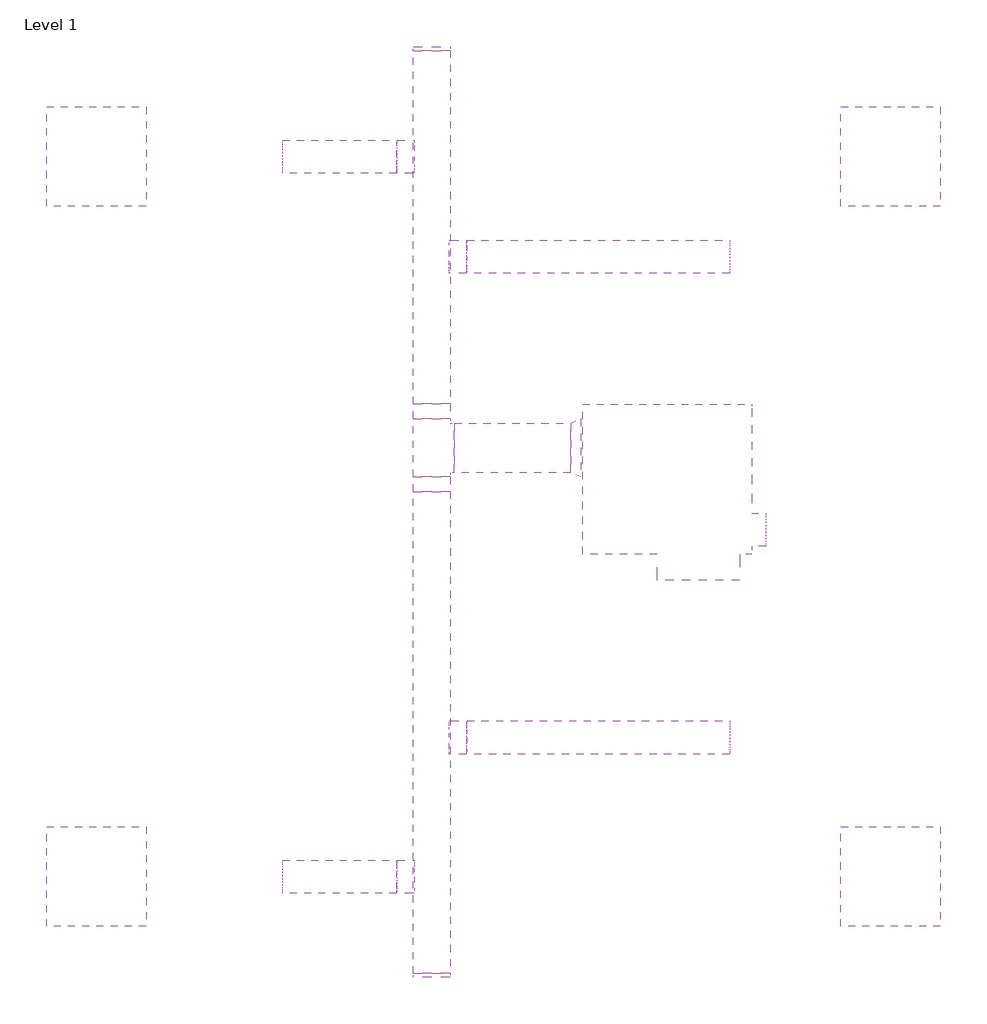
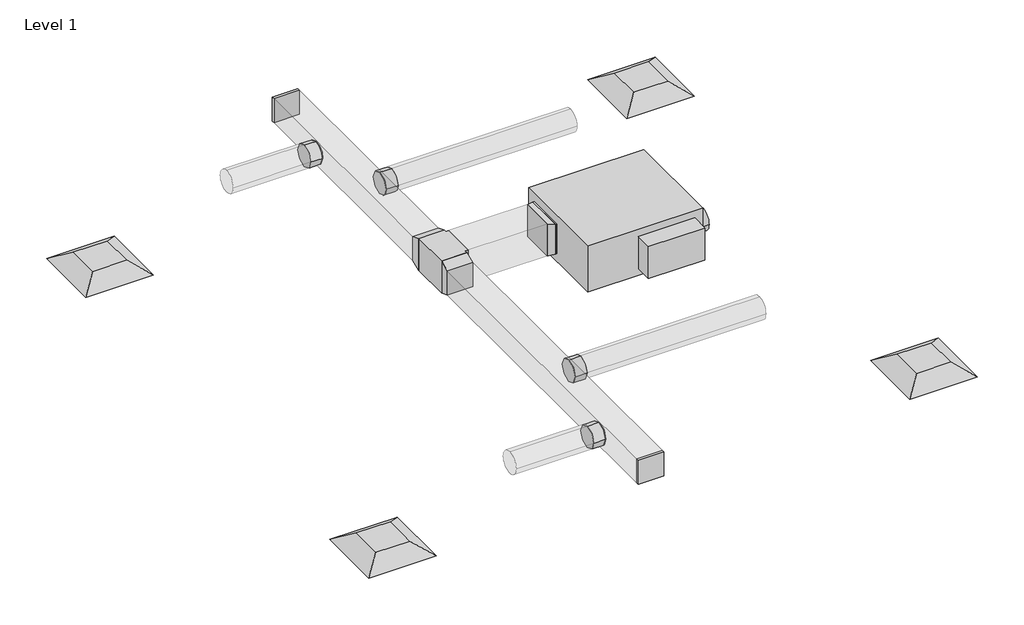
# One storey: 10 duct fittings, 7 duct segments, 4 air terminals, 1 proxy.
"""IFC4 building model written with IfcOpenShell, lengths in millimetres."""

from ifc_helpers import new_model, si_unit, point, frame, frame_2d, origin, place, context, project, spatial, polyline, circle_curve, trimmed, segment, composite_curve, outline, extrude, transform, mapped, element, save
from components import supply_diffuser_24_x_24_face_12_x_12_connection_82c57d1e, vav_unit_parallel_fan_powered_size_2_8_inch_inlet_d7904373, rectangular_endcap_standard_343960f6, rectangular_tee_standard_a9e45034, rectangular_transition_angle_45_degree_cbc335ff, rectangular_transition_angle_45_degree_133559a0, round_takeoff_standard_1127d77f

model = new_model("IFC4")

# Units and contexts
model_context = context("Model", 3, world=origin())
ifc_project = project(units=[si_unit("LENGTHUNIT", "METRE", prefix="MILLI")], contexts=[model_context])

# Site, building, storey
site = spatial("IfcSite", under=ifc_project)
building = spatial("IfcBuilding", under=site)
storey = spatial("IfcBuildingStorey", under=building, Name="Level 1", Elevation=3900.0)

# Air terminals
placement = place(None, origin())
supply_diffuser_24_x_24_face_12_x_12_connection_shape = supply_diffuser_24_x_24_face_12_x_12_connection_82c57d1e(model_context)
element("IfcAirTerminal", 1, ObjectType="Supply Diffuser : 24 x 24 Face 12 x 12 Connection", at=placement, inside=storey, context=model_context, shape_type="MappedRepresentation", body=[
    mapped(supply_diffuser_24_x_24_face_12_x_12_connection_shape, transform((2118.6000023, 13534.4000005, 6687.65), x_axis=(1.0, 0.0, 0.0), y_axis=(0.0, 1.0, 0.0), z_axis=(0.0, 0.0, 1.0))),
])
element("IfcAirTerminal", 2, ObjectType="Supply Diffuser : 24 x 24 Face 12 x 12 Connection", at=placement, inside=storey, context=model_context, shape_type="MappedRepresentation", body=[
    mapped(supply_diffuser_24_x_24_face_12_x_12_connection_shape, transform((2118.6000023, 9114.8000005, 6687.65), x_axis=(1.0, 0.0, 0.0), y_axis=(0.0, 1.0, 0.0), z_axis=(0.0, 0.0, 1.0))),
])
element("IfcAirTerminal", 3, ObjectType="Supply Diffuser : 24 x 24 Face 12 x 12 Connection", at=placement, inside=storey, context=model_context, shape_type="MappedRepresentation", body=[
    mapped(supply_diffuser_24_x_24_face_12_x_12_connection_shape, transform((6995.4000023, 9114.8000005, 6687.65), x_axis=(1.0, 0.0, 0.0), y_axis=(0.0, 1.0, 0.0), z_axis=(0.0, 0.0, 1.0))),
])
element("IfcAirTerminal", 4, ObjectType="Supply Diffuser : 24 x 24 Face 12 x 12 Connection", at=placement, inside=storey, context=model_context, shape_type="MappedRepresentation", body=[
    mapped(supply_diffuser_24_x_24_face_12_x_12_connection_shape, transform((6995.4000023, 13534.4000005, 6687.65), x_axis=(1.0, 0.0, 0.0), y_axis=(0.0, 1.0, 0.0), z_axis=(0.0, 0.0, 1.0))),
])

# Proxy
vav_unit_parallel_fan_powered_size_2_8_inch_inlet_shape = vav_unit_parallel_fan_powered_size_2_8_inch_inlet_d7904373(model_context)
element("IfcBuildingElementProxy", 5, Name="VAV Unit - Parallel Fan Powered : Size 2 - 8 inch Inlet", ObjectType="VAV Unit - Parallel Fan Powered : Size 2 - 8 inch Inlet", at=placement, inside=storey, context=model_context, shape_type="MappedRepresentation", body=[
    mapped(vav_unit_parallel_fan_powered_size_2_8_inch_inlet_shape, transform((5623.8000023, 11553.2000005, 7100.4), x_axis=(-1.0, 0.0, 0.0), y_axis=(0.0, -1.0, 0.0), z_axis=(0.0, 0.0, 1.0))),
])

# Duct fittings
rectangular_endcap_standard_shape = rectangular_endcap_standard_343960f6(model_context)
element("IfcDuctFitting", 6, ObjectType="Rectangular Endcap : Standard", at=placement, inside=storey, context=model_context, shape_type="MappedRepresentation", body=[
    mapped(rectangular_endcap_standard_shape, transform((4177.5875023, 8521.0750005, 7100.4), x_axis=(0.0, -1.0, 0.0), y_axis=(1.0, 0.0, 0.0), z_axis=(0.0, 0.0, 1.0))),
])
element("IfcDuctFitting", 7, ObjectType="Rectangular Endcap : Standard", at=placement, inside=storey, context=model_context, shape_type="MappedRepresentation", body=[
    mapped(rectangular_endcap_standard_shape, transform((4177.5875023, 14185.2750005, 7100.4), x_axis=(0.0, 1.0, 0.0), y_axis=(-1.0, 0.0, 0.0), z_axis=(0.0, 0.0, 1.0))),
])
rectangular_tee_standard_shape = rectangular_tee_standard_a9e45034(model_context)
element("IfcDuctFitting", 8, ObjectType="Rectangular Tee : Standard", at=placement, inside=storey, context=model_context, shape_type="MappedRepresentation", body=[
    mapped(rectangular_tee_standard_shape, transform((4177.5875023, 11746.8750005, 7100.4), x_axis=(0.0, 1.0, 0.0), y_axis=(-1.0, 0.0, 0.0), z_axis=(0.0, 0.0, 1.0))),
])
rectangular_transition_angle_45_degree_shape = rectangular_transition_angle_45_degree_cbc335ff(model_context)
element("IfcDuctFitting", 9, ObjectType="Rectangular Transition - Angle : 45 Degree", at=placement, inside=storey, context=model_context, shape_type="MappedRepresentation", body=[
    mapped(rectangular_transition_angle_45_degree_shape, transform((4177.5875023, 11569.0750005, 7100.4), x_axis=(0.0, -1.0, 0.0), y_axis=(1.0, 0.0, 0.0), z_axis=(0.0, 0.0, 1.0))),
])
element("IfcDuctFitting", 10, ObjectType="Rectangular Transition - Angle : 45 Degree", at=placement, inside=storey, context=model_context, shape_type="MappedRepresentation", body=[
    mapped(rectangular_transition_angle_45_degree_shape, transform((4177.5875023, 11924.6750005, 7100.4), x_axis=(0.0, 1.0, 0.0), y_axis=(-1.0, 0.0, 0.0), z_axis=(0.0, 0.0, 1.0))),
])
rectangular_transition_angle_45_degree_2_shape = rectangular_transition_angle_45_degree_133559a0(model_context)
element("IfcDuctFitting", 11, ObjectType="Rectangular Transition - Angle : 45 Degree", at=placement, inside=storey, context=model_context, shape_type="MappedRepresentation", body=[
    mapped(rectangular_transition_angle_45_degree_2_shape, transform((5091.8000023, 11746.7000005, 7100.4), x_axis=(-1.0, 0.0, 0.0), y_axis=(0.0, -1.0, 0.0), z_axis=(0.0, 0.0, 1.0))),
])
round_takeoff_standard_shape = round_takeoff_standard_1127d77f(model_context)
element("IfcDuctFitting", 12, ObjectType="Round Takeoff : Standard", at=placement, inside=storey, context=model_context, shape_type="MappedRepresentation", body=[
    mapped(round_takeoff_standard_shape, transform((4063.2875023, 13534.4000005, 7100.4), x_axis=(-1.0, 0.0, 0.0), y_axis=(0.0, -1.0, 0.0), z_axis=(0.0, 0.0, 1.0))),
])
element("IfcDuctFitting", 13, ObjectType="Round Takeoff : Standard", at=placement, inside=storey, context=model_context, shape_type="MappedRepresentation", body=[
    mapped(round_takeoff_standard_shape, transform((4291.8875023, 12919.6337557, 7100.4), x_axis=(1.0, 0.0, 0.0), y_axis=(0.0, -1.0, 0.0), z_axis=(0.0, 0.0, -1.0))),
])
element("IfcDuctFitting", 14, ObjectType="Round Takeoff : Standard", at=placement, inside=storey, context=model_context, shape_type="MappedRepresentation", body=[
    mapped(round_takeoff_standard_shape, transform((4063.2875023, 9114.8000005, 7100.4), x_axis=(-1.0, 0.0, 0.0), y_axis=(0.0, 1.0, 0.0), z_axis=(0.0, 0.0, -1.0))),
])
element("IfcDuctFitting", 15, ObjectType="Round Takeoff : Standard", at=placement, inside=storey, context=model_context, shape_type="MappedRepresentation", body=[
    mapped(round_takeoff_standard_shape, transform((4291.8875023, 9968.8750005, 7100.4), x_axis=(1.0, 0.0, 0.0), y_axis=(0.0, 1.0, 0.0), z_axis=(0.0, 0.0, 1.0))),
])

# Duct segments
element("IfcDuctSegment", 16, ObjectType="Mitered Elbows / Tees", at=placement, inside=storey, context=model_context, shape_type="SweptSolid", body=[
    extrude(outline(polyline([(5029.9965581, 11899.2750005), (5029.9965581, 11594.4750005), (4317.2875023, 11594.4750005), (4317.2875023, 11899.2750005), (5029.9965581, 11899.2750005)])), frame((0.0, 0.0, 6948.0), z_axis=(0.0, 0.0, 1.0), x_axis=(1.0, 0.0, 0.0)), (0.0, 0.0, 1.0), 304.8),
])
element("IfcDuctSegment", 17, ObjectType="Mitered Elbows / Tees", at=placement, inside=storey, context=model_context, shape_type="SweptSolid", body=[
    extrude(outline(polyline([(4291.8875023, 12016.6565372), (4063.2875023, 12016.6565372), (4063.2875023, 14185.2750005), (4291.8875023, 14185.2750005), (4291.8875023, 12016.6565372)])), frame((0.0, 0.0, 6986.1), z_axis=(0.0, 0.0, 1.0), x_axis=(1.0, 0.0, 0.0)), (0.0, 0.0, 1.0), 228.6),
])
element("IfcDuctSegment", 18, ObjectType="Mitered Elbows / Tees", at=placement, inside=storey, context=model_context, shape_type="SweptSolid", body=[
    extrude(outline(polyline([(4063.2875023, 11477.0934638), (4291.8875023, 11477.0934638), (4291.8875023, 8521.0750005), (4063.2875023, 8521.0750005), (4063.2875023, 11477.0934638)])), frame((0.0, 0.0, 6986.1), z_axis=(0.0, 0.0, 1.0), x_axis=(1.0, 0.0, 0.0)), (0.0, 0.0, 1.0), 228.6),
])
element("IfcDuctSegment", 19, ObjectType="Taps", at=placement, inside=storey, context=model_context, shape_type="SweptSolid", body=[
    extrude(outline(composite_curve([segment(trimmed(circle_curve(frame_2d((13534.4000005, 7100.4)), 101.6), [point((13636.0000005, 7100.4))], [point((13534.4000005, 6998.8))], False, "CARTESIAN"), True, "CONTINUOUS"), segment(trimmed(circle_curve(frame_2d((13534.4000005, 7100.4)), 101.6), [point((13534.4000005, 6998.8))], [point((13432.8000005, 7100.4))], False, "CARTESIAN"), True, "CONTINUOUS"), segment(trimmed(circle_curve(frame_2d((13534.4000005, 7100.4)), 101.6), [point((13432.8000005, 7100.4))], [point((13534.4000005, 7202.0))], False, "CARTESIAN"), True, "CONTINUOUS"), segment(trimmed(circle_curve(frame_2d((13534.4000005, 7100.4)), 101.6), [point((13534.4000005, 7202.0))], [point((13636.0000005, 7100.4))], False, "CARTESIAN"), True, "CONTINUOUS")], self_intersect=False)), frame((3263.1875023, 0.0, 0.0), z_axis=(1.0, 0.0, 0.0), x_axis=(0.0, 1.0, 0.0)), (0.0, 0.0, 1.0), 698.5),
])
element("IfcDuctSegment", 20, ObjectType="Taps", at=placement, inside=storey, context=model_context, shape_type="SweptSolid", body=[
    extrude(outline(composite_curve([segment(trimmed(circle_curve(frame_2d((12919.6337557, 7100.4)), 101.6), [point((12818.0337557, 7100.4))], [point((12919.6337557, 7202.0))], False, "CARTESIAN"), True, "CONTINUOUS"), segment(trimmed(circle_curve(frame_2d((12919.6337557, 7100.4)), 101.6), [point((12919.6337557, 7202.0))], [point((13021.2337557, 7100.4))], False, "CARTESIAN"), True, "CONTINUOUS"), segment(trimmed(circle_curve(frame_2d((12919.6337557, 7100.4)), 101.6), [point((13021.2337557, 7100.4))], [point((12919.6337557, 6998.8))], False, "CARTESIAN"), True, "CONTINUOUS"), segment(trimmed(circle_curve(frame_2d((12919.6337557, 7100.4)), 101.6), [point((12919.6337557, 6998.8))], [point((12818.0337557, 7100.4))], False, "CARTESIAN"), True, "CONTINUOUS")], self_intersect=False)), frame((4393.4875023, 0.0, 0.0), z_axis=(1.0, 0.0, 0.0), x_axis=(0.0, 1.0, 0.0)), (0.0, 0.0, 1.0), 1612.9),
])
element("IfcDuctSegment", 21, ObjectType="Taps", at=placement, inside=storey, context=model_context, shape_type="SweptSolid", body=[
    extrude(outline(composite_curve([segment(trimmed(circle_curve(frame_2d((9114.8000005, 7100.4)), 101.6), [point((9216.4000005, 7100.4))], [point((9114.8000005, 6998.8))], False, "CARTESIAN"), True, "CONTINUOUS"), segment(trimmed(circle_curve(frame_2d((9114.8000005, 7100.4)), 101.6), [point((9114.8000005, 6998.8))], [point((9013.2000005, 7100.4))], False, "CARTESIAN"), True, "CONTINUOUS"), segment(trimmed(circle_curve(frame_2d((9114.8000005, 7100.4)), 101.6), [point((9013.2000005, 7100.4))], [point((9114.8000005, 7202.0))], False, "CARTESIAN"), True, "CONTINUOUS"), segment(trimmed(circle_curve(frame_2d((9114.8000005, 7100.4)), 101.6), [point((9114.8000005, 7202.0))], [point((9216.4000005, 7100.4))], False, "CARTESIAN"), True, "CONTINUOUS")], self_intersect=False)), frame((3263.1875023, 0.0, 0.0), z_axis=(1.0, 0.0, 0.0), x_axis=(0.0, 1.0, 0.0)), (0.0, 0.0, 1.0), 698.5),
])
element("IfcDuctSegment", 22, ObjectType="Taps", at=placement, inside=storey, context=model_context, shape_type="SweptSolid", body=[
    extrude(outline(composite_curve([segment(trimmed(circle_curve(frame_2d((9968.8750005, 7100.4)), 101.6), [point((9867.2750005, 7100.4))], [point((9968.8750005, 7202.0))], False, "CARTESIAN"), True, "CONTINUOUS"), segment(trimmed(circle_curve(frame_2d((9968.8750005, 7100.4)), 101.6), [point((9968.8750005, 7202.0))], [point((10070.4750005, 7100.4))], False, "CARTESIAN"), True, "CONTINUOUS"), segment(trimmed(circle_curve(frame_2d((9968.8750005, 7100.4)), 101.6), [point((10070.4750005, 7100.4))], [point((9968.8750005, 6998.8))], False, "CARTESIAN"), True, "CONTINUOUS"), segment(trimmed(circle_curve(frame_2d((9968.8750005, 7100.4)), 101.6), [point((9968.8750005, 6998.8))], [point((9867.2750005, 7100.4))], False, "CARTESIAN"), True, "CONTINUOUS")], self_intersect=False)), frame((4393.4875023, 0.0, 0.0), z_axis=(1.0, 0.0, 0.0), x_axis=(0.0, 1.0, 0.0)), (0.0, 0.0, 1.0), 1612.9),
])

save(model, "model.ifc")
